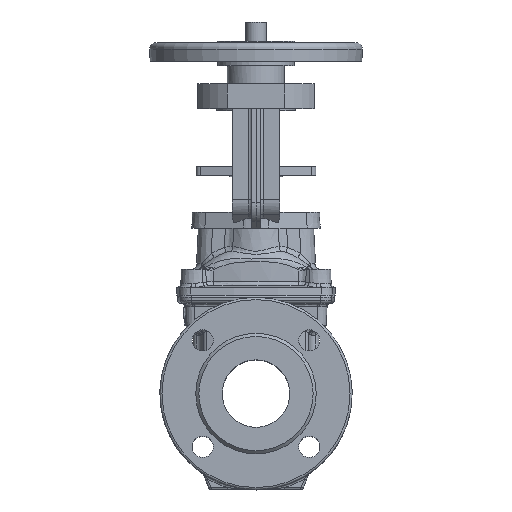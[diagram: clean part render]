
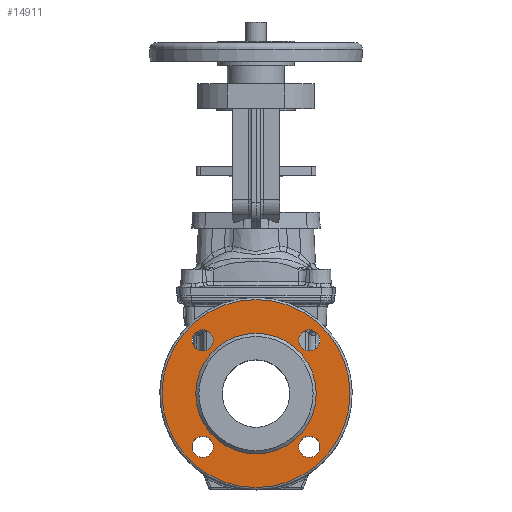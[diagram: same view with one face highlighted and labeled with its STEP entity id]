
A CAD part, top view. The second image highlights one B-rep face of the part: STEP entity #14911.
In plain terms, the highlighted planar face has unit normal (0, 0, 1).
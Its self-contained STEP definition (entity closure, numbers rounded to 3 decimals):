
#5216 = ORIENTED_EDGE ( 'NONE', *, *, #9763, .T. ) ;
#5229 = ORIENTED_EDGE ( 'NONE', *, *, #9783, .F. ) ;
#5279 = ORIENTED_EDGE ( 'NONE', *, *, #9781, .F. ) ;
#5293 = ORIENTED_EDGE ( 'NONE', *, *, #9779, .T. ) ;
#5386 = ORIENTED_EDGE ( 'NONE', *, *, #9777, .F. ) ;
#5400 = ORIENTED_EDGE ( 'NONE', *, *, #9765, .T. ) ;
#6887 = FACE_OUTER_BOUND ( 'NONE', #14471, .T. ) ;
#6889 = FACE_BOUND ( 'NONE', #14413, .T. ) ;
#6891 = FACE_BOUND ( 'NONE', #14762, .T. ) ;
#6892 = FACE_BOUND ( 'NONE', #14820, .T. ) ;
#6895 = FACE_BOUND ( 'NONE', #14386, .T. ) ;
#6896 = FACE_BOUND ( 'NONE', #14476, .T. ) ;
#7935 = CARTESIAN_POINT ( 'NONE',  ( 51.265, 41.015, 92. ) ) ;
#7936 = CARTESIAN_POINT ( 'NONE',  ( 0., -90.5, 92. ) ) ;
#7937 = CARTESIAN_POINT ( 'NONE',  ( -51.265, 41.015, 92. ) ) ;
#7938 = CARTESIAN_POINT ( 'NONE',  ( 51.265, -61.515, 92. ) ) ;
#7940 = CARTESIAN_POINT ( 'NONE',  ( -51.265, -61.515, 92. ) ) ;
#7941 = CARTESIAN_POINT ( 'NONE',  ( 0., -58., 92. ) ) ;
#9763 = EDGE_CURVE ( 'NONE', #33004, #33004, #15759, .T. ) ;
#9765 = EDGE_CURVE ( 'NONE', #33005, #33005, #15756, .T. ) ;
#9777 = EDGE_CURVE ( 'NONE', #33006, #33006, #15767, .T. ) ;
#9779 = EDGE_CURVE ( 'NONE', #33007, #33007, #15769, .T. ) ;
#9781 = EDGE_CURVE ( 'NONE', #33009, #33009, #15775, .T. ) ;
#9783 = EDGE_CURVE ( 'NONE', #33010, #33010, #15773, .T. ) ;
#11806 = AXIS2_PLACEMENT_3D ( 'NONE', #12670, #12666, #12672 ) ;
#12666 = DIRECTION ( 'NONE',  ( 0., 0., 1. ) ) ;
#12668 = PLANE ( 'NONE',  #11806 ) ;
#12670 = CARTESIAN_POINT ( 'NONE',  ( 0., 58., 92. ) ) ;
#12672 = DIRECTION ( 'NONE',  ( 0., -1., 0. ) ) ;
#14386 = EDGE_LOOP ( 'NONE', ( #5216 ) ) ;
#14413 = EDGE_LOOP ( 'NONE', ( #5386 ) ) ;
#14471 = EDGE_LOOP ( 'NONE', ( #5400 ) ) ;
#14476 = EDGE_LOOP ( 'NONE', ( #5229 ) ) ;
#14762 = EDGE_LOOP ( 'NONE', ( #5279 ) ) ;
#14820 = EDGE_LOOP ( 'NONE', ( #5293 ) ) ;
#14911 = ADVANCED_FACE ( 'NONE', ( #6892, #6895, #6891, #6889, #6887, #6896 ), #12668, .T. ) ;
#15756 = CIRCLE ( 'NONE', #34494, 90.5 ) ;
#15759 = CIRCLE ( 'NONE', #34496, 10.25 ) ;
#15767 = CIRCLE ( 'NONE', #34491, 10.25 ) ;
#15769 = CIRCLE ( 'NONE', #34490, 10.25 ) ;
#15773 = CIRCLE ( 'NONE', #34487, 58. ) ;
#15775 = CIRCLE ( 'NONE', #34488, 10.25 ) ;
#31597 = DIRECTION ( 'NONE',  ( 0., -1., 0. ) ) ;
#31610 = DIRECTION ( 'NONE',  ( 0., 0., 1. ) ) ;
#31612 = CARTESIAN_POINT ( 'NONE',  ( 0., 0., 92. ) ) ;
#31628 = DIRECTION ( 'NONE',  ( 0., -1., 0. ) ) ;
#31629 = DIRECTION ( 'NONE',  ( 0., 0., 1. ) ) ;
#31630 = CARTESIAN_POINT ( 'NONE',  ( -51.265, -51.265, 92. ) ) ;
#31635 = DIRECTION ( 'NONE',  ( 0., -1., 0. ) ) ;
#31636 = DIRECTION ( 'NONE',  ( 0., 0., -1. ) ) ;
#31637 = CARTESIAN_POINT ( 'NONE',  ( 51.265, -51.265, 92. ) ) ;
#31640 = DIRECTION ( 'NONE',  ( 0., -1., 0. ) ) ;
#31641 = DIRECTION ( 'NONE',  ( 0., 0., 1. ) ) ;
#31642 = CARTESIAN_POINT ( 'NONE',  ( -51.265, 51.265, 92. ) ) ;
#31671 = DIRECTION ( 'NONE',  ( 0., -1., 0. ) ) ;
#31672 = DIRECTION ( 'NONE',  ( 0., 0., 1. ) ) ;
#31673 = CARTESIAN_POINT ( 'NONE',  ( 0., 0., 92. ) ) ;
#31679 = DIRECTION ( 'NONE',  ( 0., -1., 0. ) ) ;
#31680 = DIRECTION ( 'NONE',  ( 0., 0., -1. ) ) ;
#31681 = CARTESIAN_POINT ( 'NONE',  ( 51.265, 51.265, 92. ) ) ;
#33004 = VERTEX_POINT ( 'NONE', #7935 ) ;
#33005 = VERTEX_POINT ( 'NONE', #7936 ) ;
#33006 = VERTEX_POINT ( 'NONE', #7937 ) ;
#33007 = VERTEX_POINT ( 'NONE', #7938 ) ;
#33009 = VERTEX_POINT ( 'NONE', #7940 ) ;
#33010 = VERTEX_POINT ( 'NONE', #7941 ) ;
#34487 = AXIS2_PLACEMENT_3D ( 'NONE', #31612, #31610, #31597 ) ;
#34488 = AXIS2_PLACEMENT_3D ( 'NONE', #31630, #31629, #31628 ) ;
#34490 = AXIS2_PLACEMENT_3D ( 'NONE', #31637, #31636, #31635 ) ;
#34491 = AXIS2_PLACEMENT_3D ( 'NONE', #31642, #31641, #31640 ) ;
#34494 = AXIS2_PLACEMENT_3D ( 'NONE', #31673, #31672, #31671 ) ;
#34496 = AXIS2_PLACEMENT_3D ( 'NONE', #31681, #31680, #31679 ) ;
